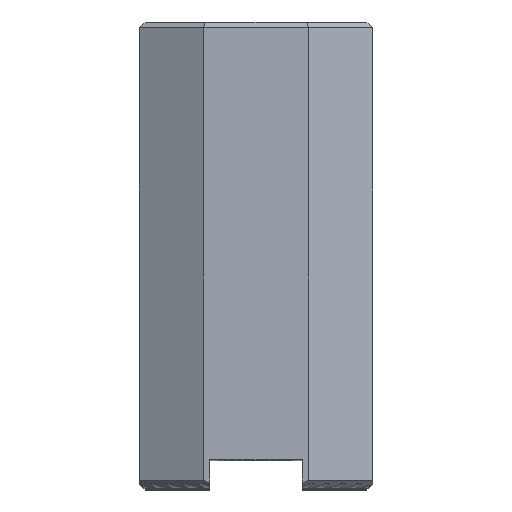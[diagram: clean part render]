
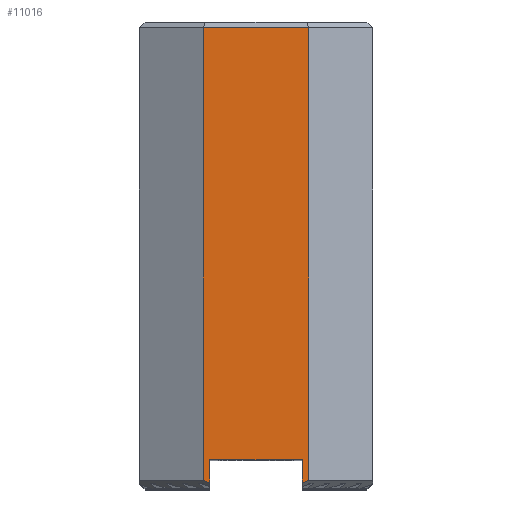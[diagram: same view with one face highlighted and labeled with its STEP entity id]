
A CAD part, top view. The second image highlights one B-rep face of the part: STEP entity #11016.
In plain terms, the highlighted planar face has unit normal (0, 0, 1).
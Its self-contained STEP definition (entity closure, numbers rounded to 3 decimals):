
#648=FACE_OUTER_BOUND('',#1264,.T.);
#1264=EDGE_LOOP('',(#9793,#9794,#9795,#9796,#9797,#9798,#9799,#9800,#9801,
#9802));
#1267=LINE('',#14432,#2783);
#1491=LINE('',#14879,#3007);
#1714=LINE('',#15329,#3230);
#2160=LINE('',#16222,#3676);
#2730=LINE('',#17298,#4246);
#2743=LINE('',#17391,#4259);
#2746=LINE('',#17397,#4262);
#2750=LINE('',#17406,#4266);
#2773=LINE('',#17451,#4289);
#2780=LINE('',#17483,#4296);
#2783=VECTOR('',#11668,10.);
#3007=VECTOR('',#11894,10.);
#3230=VECTOR('',#12123,10.);
#3676=VECTOR('',#13011,10.);
#4246=VECTOR('',#14155,10.);
#4259=VECTOR('',#14318,10.);
#4262=VECTOR('',#14323,10.);
#4266=VECTOR('',#14331,10.);
#4289=VECTOR('',#14380,10.);
#4296=VECTOR('',#14421,10.);
#4299=VERTEX_POINT('',#14429);
#4300=VERTEX_POINT('',#14431);
#4522=VERTEX_POINT('',#14877);
#4746=VERTEX_POINT('',#15327);
#4972=VERTEX_POINT('',#16221);
#5191=VERTEX_POINT('',#17297);
#5196=VERTEX_POINT('',#17389);
#5198=VERTEX_POINT('',#17395);
#5201=VERTEX_POINT('',#17405);
#5209=VERTEX_POINT('',#17445);
#5221=EDGE_CURVE('',#4300,#4299,#1267,.T.);
#5445=EDGE_CURVE('',#4299,#4522,#1491,.T.);
#5670=EDGE_CURVE('',#4522,#4746,#1714,.T.);
#6116=EDGE_CURVE('',#4300,#4972,#2160,.T.);
#6688=EDGE_CURVE('',#4972,#5191,#2730,.T.);
#6701=EDGE_CURVE('',#5196,#4746,#2743,.T.);
#6704=EDGE_CURVE('',#5198,#5196,#2746,.T.);
#6708=EDGE_CURVE('',#5191,#5201,#2750,.T.);
#6731=EDGE_CURVE('',#5201,#5209,#2773,.T.);
#6746=EDGE_CURVE('',#5198,#5209,#2780,.T.);
#9793=ORIENTED_EDGE('',*,*,#5670,.T.);
#9794=ORIENTED_EDGE('',*,*,#6701,.F.);
#9795=ORIENTED_EDGE('',*,*,#6704,.F.);
#9796=ORIENTED_EDGE('',*,*,#6746,.T.);
#9797=ORIENTED_EDGE('',*,*,#6731,.F.);
#9798=ORIENTED_EDGE('',*,*,#6708,.F.);
#9799=ORIENTED_EDGE('',*,*,#6688,.F.);
#9800=ORIENTED_EDGE('',*,*,#6116,.F.);
#9801=ORIENTED_EDGE('',*,*,#5221,.T.);
#9802=ORIENTED_EDGE('',*,*,#5445,.T.);
#10406=PLANE('',#11661);
#11016=ADVANCED_FACE('',(#648),#10406,.T.);
#11661=AXIS2_PLACEMENT_3D('',#17484,#14422,#14423);
#11668=DIRECTION('',(0.,1.,0.));
#11894=DIRECTION('',(1.,0.,0.));
#12123=DIRECTION('',(0.,-1.,0.));
#13011=DIRECTION('',(-1.,0.,0.));
#14155=DIRECTION('',(-0.902,0.432,0.));
#14318=DIRECTION('',(-1.,0.,0.));
#14323=DIRECTION('',(-0.902,-0.432,0.));
#14331=DIRECTION('',(0.,1.,0.));
#14380=DIRECTION('',(1.,0.,0.));
#14421=DIRECTION('',(0.,1.,0.));
#14422=DIRECTION('center_axis',(0.,0.,1.));
#14423=DIRECTION('ref_axis',(1.,0.,0.));
#14429=CARTESIAN_POINT('',(-7.95,5.,55.));
#14431=CARTESIAN_POINT('',(-7.95,1.,55.));
#14432=CARTESIAN_POINT('',(-7.95,0.,55.));
#14877=CARTESIAN_POINT('',(7.95,5.,55.));
#14879=CARTESIAN_POINT('',(-8.475,5.,55.));
#15327=CARTESIAN_POINT('',(7.95,1.,55.));
#15329=CARTESIAN_POINT('',(7.95,2.5,55.));
#16221=CARTESIAN_POINT('',(-7.956,1.,55.));
#16222=CARTESIAN_POINT('',(-4.5,1.,55.));
#17297=CARTESIAN_POINT('',(-9.,1.5,55.));
#17298=CARTESIAN_POINT('',(-13.944,3.868,55.));
#17389=CARTESIAN_POINT('',(7.956,1.,55.));
#17391=CARTESIAN_POINT('',(-4.5,1.,55.));
#17395=CARTESIAN_POINT('',(9.,1.5,55.));
#17397=CARTESIAN_POINT('',(4.386,-0.709,55.));
#17405=CARTESIAN_POINT('',(-9.,79.,55.));
#17406=CARTESIAN_POINT('',(-9.,0.,55.));
#17445=CARTESIAN_POINT('',(9.,79.,55.));
#17451=CARTESIAN_POINT('',(-4.5,79.,55.));
#17483=CARTESIAN_POINT('',(9.,0.,55.));
#17484=CARTESIAN_POINT('Origin',(-9.,0.,55.));
